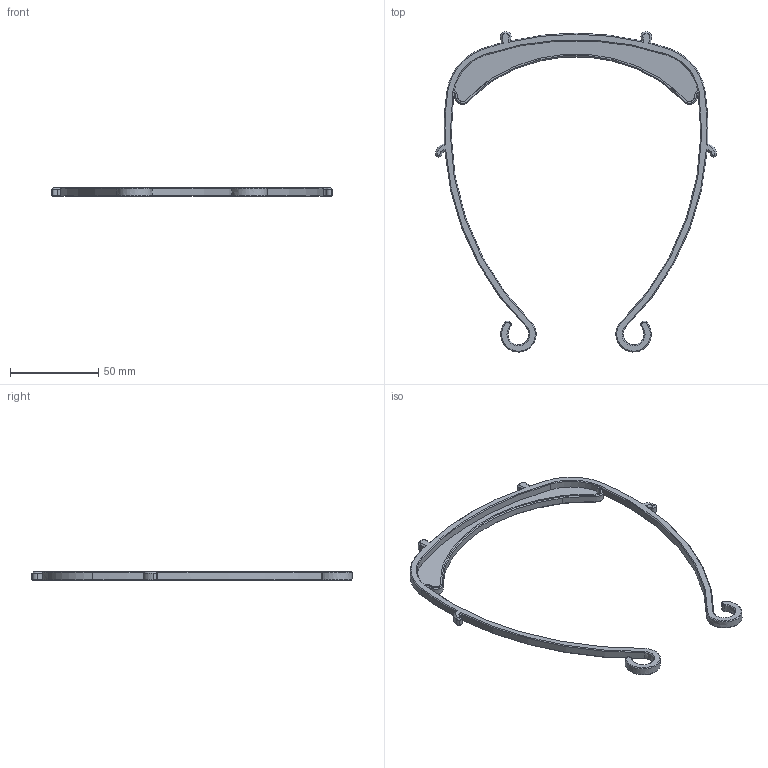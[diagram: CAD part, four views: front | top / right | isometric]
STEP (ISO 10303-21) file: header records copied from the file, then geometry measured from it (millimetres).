
FILE_DESCRIPTION((''),'2;1');
FILE_NAME('VERKSTAN_A4_C','2020-04-08T01:36:12',('Jason'),(''),'CREO PARAMETRIC BY PTC INC, 2019224','CREO PARAMETRIC BY PTC INC, 2019224','');
FILE_SCHEMA(('CONFIG_CONTROL_DESIGN'));
Length unit declared in the file: millimetre
Products named in the file (1): VERKSTAN_A4_C
Bounding box: 159.26 x 181.34 x 5 mm (x, y, z)
Volume: 13043.9 mm3; surface area: 14421.1 mm2
Topology: 1 solids, 1 shells, 146 faces, 353 edges, 210 vertices
Faces by surface type: cone 59, cylinder 34, plane 33, bspline 12, extrusion 8
Entity records: 6369 total; most frequent: CARTESIAN_POINT 3046, ORIENTED_EDGE 706, DIRECTION 655, EDGE_CURVE 353, AXIS2_PLACEMENT_3D 249, VERTEX_POINT 210, VECTOR 157, LINE 149
